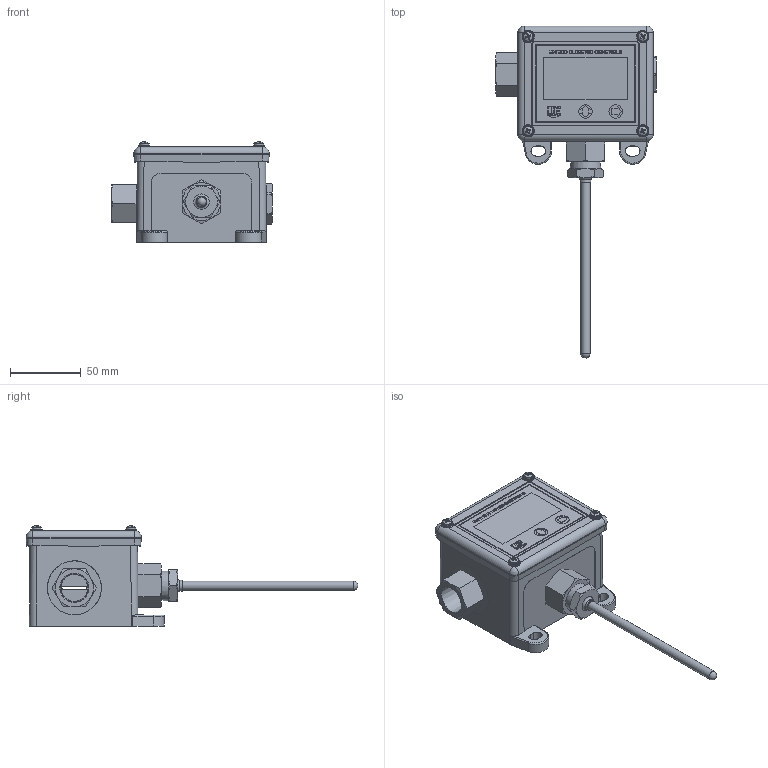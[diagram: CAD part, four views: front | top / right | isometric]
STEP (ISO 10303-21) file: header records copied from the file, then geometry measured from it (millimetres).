
FILE_DESCRIPTION (( 'STEP AP214' ), '1' );
FILE_NAME ('1GSWLLTL2.STEP', '2025-03-05T20:04:05', ( '' ), ( '' ), 'SwSTEP 2.0', 'SolidWorks 2023', '' );
FILE_SCHEMA (( 'AUTOMOTIVE_DESIGN' ));
Length unit declared in the file: inch
Products named in the file (1): 1GSWLLTL2
Bounding box: 113.49 x 234.3 x 70.85 mm (x, y, z)
Surface area: 52440.6 mm2 (no closed solid volume)
Topology: 0 solids, 15 shells, 414 faces, 1401 edges, 969 vertices
Faces by surface type: plane 244, bspline 59, cylinder 51, cone 42, torus 9, sphere 9
Full cylindrical faces by diameter (mm): 6.426 x1, 6.858 x4, 7.722 x1, 7.899 x4, 9.652 x2, 24.892 x1
Entity records: 20335 total; most frequent: CARTESIAN_POINT 9376, ORIENTED_EDGE 2152, DIRECTION 1937, EDGE_CURVE 1367, VERTEX_POINT 961, LINE 821, VECTOR 821, AXIS2_PLACEMENT_3D 558
